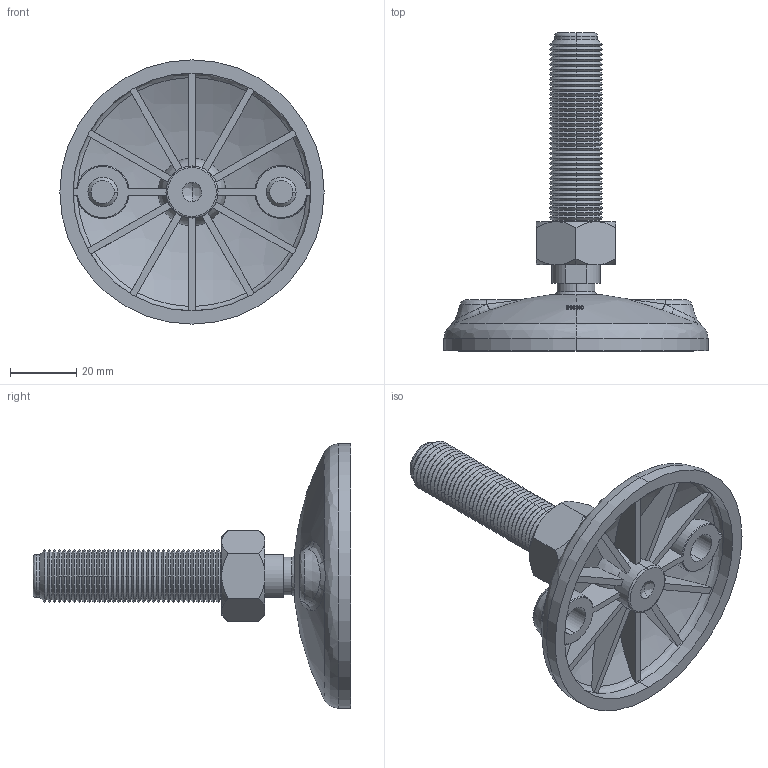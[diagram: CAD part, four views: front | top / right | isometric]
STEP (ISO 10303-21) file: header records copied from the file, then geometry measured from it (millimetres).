
FILE_DESCRIPTION (( 'STEP AP214' ), '1' );
FILE_NAME ('FABER - 331 80 M16.STEP', '2017-04-05T12:16:18', ( '' ), ( '' ), 'SwSTEP 2.0', 'SolidWorks 2016', '' );
FILE_SCHEMA (( 'AUTOMOTIVE_DESIGN' ));
Length unit declared in the file: millimetre
Products named in the file (1): FABER - 331 80 M16
Bounding box: 80 x 96.25 x 80 mm (x, y, z)
Volume: 47099.8 mm3; surface area: 27028.7 mm2
Topology: 3 solids, 3 shells, 561 faces, 1407 edges, 864 vertices
Faces by surface type: cone 232, plane 175, bspline 128, cylinder 26
Entity records: 26805 total; most frequent: CARTESIAN_POINT 8292, ORIENTED_EDGE 2798, DIRECTION 2241, EDGE_CURVE 1399, AXIS2_PLACEMENT_3D 868, VERTEX_POINT 864, EDGE_LOOP 583, UNCERTAINTY_MEASURE_WITH_UNIT 566
